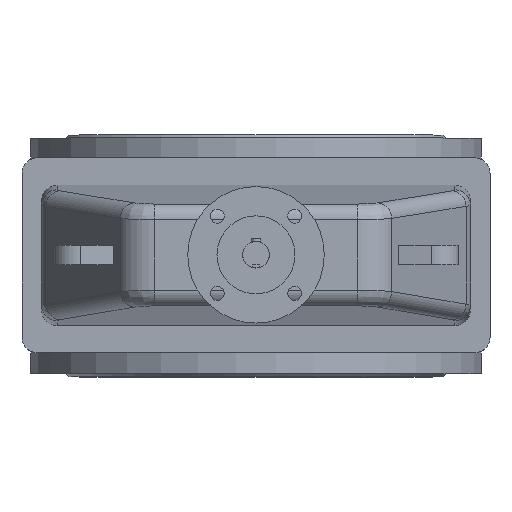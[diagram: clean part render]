
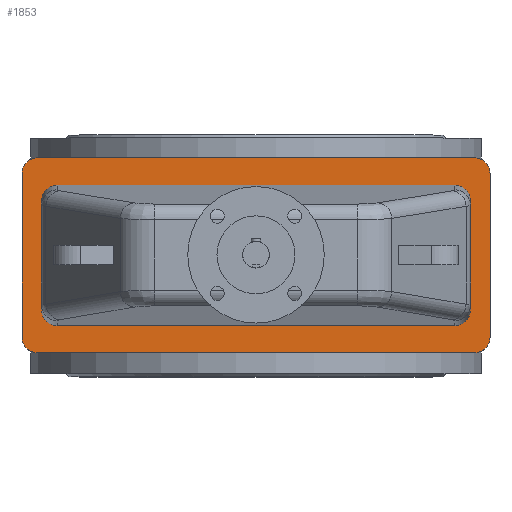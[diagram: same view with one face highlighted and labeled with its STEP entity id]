
A CAD part, top view. The second image highlights one B-rep face of the part: STEP entity #1853.
In plain terms, the highlighted planar face has unit normal (0, 0, 1).
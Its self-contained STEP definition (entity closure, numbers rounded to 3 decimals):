
#1853=ADVANCED_FACE('',(#5692,#5694),#5696,.T.);
#5692=FACE_BOUND('',#5693,.T.);
#5693=EDGE_LOOP('',(#7711,#7712,#7713,#7714,#7715,#7716,#7717,#7718));
#5694=FACE_BOUND('',#5695,.T.);
#5695=EDGE_LOOP('',(#7719,#7720,#7721,#7722,#7723,#7724,#7725,#7726));
#5696=PLANE('',#5697);
#5697=AXIS2_PLACEMENT_3D('',#5698,#5699,#5700);
#5698=CARTESIAN_POINT('',(0.,0.,466.));
#5699=DIRECTION('',(0.,-0.,1.));
#5700=DIRECTION('',(0.,1.,0.));
#7711=ORIENTED_EDGE('',*,*,#8463,.F.);
#7712=ORIENTED_EDGE('',*,*,#8476,.T.);
#7713=ORIENTED_EDGE('',*,*,#8475,.F.);
#7714=ORIENTED_EDGE('',*,*,#8473,.T.);
#7715=ORIENTED_EDGE('',*,*,#8471,.F.);
#7716=ORIENTED_EDGE('',*,*,#8469,.T.);
#7717=ORIENTED_EDGE('',*,*,#8467,.F.);
#7718=ORIENTED_EDGE('',*,*,#8464,.T.);
#7719=ORIENTED_EDGE('',*,*,#8477,.F.);
#7720=ORIENTED_EDGE('',*,*,#8478,.F.);
#7721=ORIENTED_EDGE('',*,*,#8479,.F.);
#7722=ORIENTED_EDGE('',*,*,#8480,.F.);
#7723=ORIENTED_EDGE('',*,*,#8481,.F.);
#7724=ORIENTED_EDGE('',*,*,#8482,.F.);
#7725=ORIENTED_EDGE('',*,*,#8483,.F.);
#7726=ORIENTED_EDGE('',*,*,#8484,.F.);
#8463=EDGE_CURVE('',#9403,#9401,#9405,.F.);
#8464=EDGE_CURVE('',#9406,#9401,#9407,.T.);
#8467=EDGE_CURVE('',#9406,#9409,#9411,.F.);
#8469=EDGE_CURVE('',#9412,#9409,#9414,.T.);
#8471=EDGE_CURVE('',#9412,#9415,#9417,.F.);
#8473=EDGE_CURVE('',#9418,#9415,#9420,.T.);
#8475=EDGE_CURVE('',#9418,#9421,#9423,.F.);
#8476=EDGE_CURVE('',#9403,#9421,#9424,.T.);
#8477=EDGE_CURVE('',#9425,#9426,#9427,.F.);
#8478=EDGE_CURVE('',#9428,#9425,#9429,.T.);
#8479=EDGE_CURVE('',#9430,#9428,#9431,.T.);
#8480=EDGE_CURVE('',#9432,#9430,#9433,.T.);
#8481=EDGE_CURVE('',#9434,#9432,#9435,.F.);
#8482=EDGE_CURVE('',#9436,#9434,#9437,.T.);
#8483=EDGE_CURVE('',#9438,#9436,#9439,.T.);
#8484=EDGE_CURVE('',#9426,#9438,#9440,.T.);
#9401=VERTEX_POINT('',#12401);
#9403=VERTEX_POINT('',#12405);
#9405=CIRCLE('',#12409,20.);
#9406=VERTEX_POINT('',#12413);
#9407=LINE('',#12414,#12415);
#9409=VERTEX_POINT('',#12420);
#9411=CIRCLE('',#12424,20.);
#9412=VERTEX_POINT('',#12428);
#9414=LINE('',#12432,#12433);
#9415=VERTEX_POINT('',#12435);
#9417=CIRCLE('',#12439,20.);
#9418=VERTEX_POINT('',#12443);
#9420=LINE('',#12447,#12448);
#9421=VERTEX_POINT('',#12450);
#9423=CIRCLE('',#12454,20.);
#9424=LINE('',#12458,#12459);
#9425=VERTEX_POINT('',#12461);
#9426=VERTEX_POINT('',#12462);
#9427=(BOUNDED_CURVE()B_SPLINE_CURVE(3,
(#12463,#12464,#12465,#12466),
.UNSPECIFIED.,.F.,.F.)B_SPLINE_CURVE_WITH_KNOTS((4,4),
(0.,1.),
.UNSPECIFIED.)CURVE()GEOMETRIC_REPRESENTATION_ITEM()RATIONAL_B_SPLINE_CURVE((1.,
0.805,0.805,1.))REPRESENTATION_ITEM(''));
#9428=VERTEX_POINT('',#12467);
#9429=LINE('',#12468,#12469);
#9430=VERTEX_POINT('',#12471);
#9431=(BOUNDED_CURVE()B_SPLINE_CURVE(3,
(#12472,#12473,#12474,#12475),
.UNSPECIFIED.,.F.,.F.)B_SPLINE_CURVE_WITH_KNOTS((4,4),
(0.,1.),
.UNSPECIFIED.)CURVE()GEOMETRIC_REPRESENTATION_ITEM()RATIONAL_B_SPLINE_CURVE((1.,
0.805,0.805,1.))REPRESENTATION_ITEM(''));
#9432=VERTEX_POINT('',#12476);
#9433=LINE('',#12477,#12478);
#9434=VERTEX_POINT('',#12480);
#9435=(BOUNDED_CURVE()B_SPLINE_CURVE(3,
(#12481,#12482,#12483,#12484),
.UNSPECIFIED.,.F.,.F.)B_SPLINE_CURVE_WITH_KNOTS((4,4),
(0.,1.),
.UNSPECIFIED.)CURVE()GEOMETRIC_REPRESENTATION_ITEM()RATIONAL_B_SPLINE_CURVE((1.,
0.805,0.805,1.))REPRESENTATION_ITEM(''));
#9436=VERTEX_POINT('',#12485);
#9437=LINE('',#12486,#12487);
#9438=VERTEX_POINT('',#12489);
#9439=(BOUNDED_CURVE()B_SPLINE_CURVE(3,
(#12490,#12491,#12492,#12493),
.UNSPECIFIED.,.F.,.F.)B_SPLINE_CURVE_WITH_KNOTS((4,4),
(0.,1.),
.UNSPECIFIED.)CURVE()GEOMETRIC_REPRESENTATION_ITEM()RATIONAL_B_SPLINE_CURVE((1.,
0.805,0.805,1.))REPRESENTATION_ITEM(''));
#9440=LINE('',#12494,#12495);
#12401=CARTESIAN_POINT('',(-300.,-105.,466.));
#12405=CARTESIAN_POINT('',(-280.,-125.,466.));
#12409=AXIS2_PLACEMENT_3D('',#12410,#12411,#12412);
#12410=CARTESIAN_POINT('',(-280.,-105.,466.));
#12411=DIRECTION('',(0.,-0.,1.));
#12412=DIRECTION('',(-1.,0.,0.));
#12413=CARTESIAN_POINT('',(-300.,105.,466.));
#12414=CARTESIAN_POINT('',(-300.,105.,466.));
#12415=VECTOR('',#12416,1.);
#12416=DIRECTION('',(0.,-1.,0.));
#12420=CARTESIAN_POINT('',(-280.,125.,466.));
#12424=AXIS2_PLACEMENT_3D('',#12425,#12426,#12427);
#12425=CARTESIAN_POINT('',(-280.,105.,466.));
#12426=DIRECTION('',(0.,-0.,1.));
#12427=DIRECTION('',(0.,1.,0.));
#12428=CARTESIAN_POINT('',(280.,125.,466.));
#12432=CARTESIAN_POINT('',(280.,125.,466.));
#12433=VECTOR('',#12434,1.);
#12434=DIRECTION('',(-1.,0.,0.));
#12435=CARTESIAN_POINT('',(300.,105.,466.));
#12439=AXIS2_PLACEMENT_3D('',#12440,#12441,#12442);
#12440=CARTESIAN_POINT('',(280.,105.,466.));
#12441=DIRECTION('',(0.,-0.,1.));
#12442=DIRECTION('',(1.,0.,0.));
#12443=CARTESIAN_POINT('',(300.,-105.,466.));
#12447=CARTESIAN_POINT('',(300.,-105.,466.));
#12448=VECTOR('',#12449,1.);
#12449=DIRECTION('',(0.,1.,0.));
#12450=CARTESIAN_POINT('',(280.,-125.,466.));
#12454=AXIS2_PLACEMENT_3D('',#12455,#12456,#12457);
#12455=CARTESIAN_POINT('',(280.,-105.,466.));
#12456=DIRECTION('',(0.,-0.,1.));
#12457=DIRECTION('',(0.,-1.,0.));
#12458=CARTESIAN_POINT('',(-280.,-125.,466.));
#12459=VECTOR('',#12460,1.);
#12460=DIRECTION('',(1.,0.,0.));
#12461=CARTESIAN_POINT('',(255.,-90.,466.));
#12462=CARTESIAN_POINT('',(275.,-69.924,466.));
#12463=CARTESIAN_POINT('',(275.,-69.924,466.));
#12464=CARTESIAN_POINT('',(275.,-81.684,466.));
#12465=CARTESIAN_POINT('',(266.716,-90.,466.));
#12466=CARTESIAN_POINT('',(255.,-90.,466.));
#12467=CARTESIAN_POINT('',(-255.,-90.,466.));
#12468=CARTESIAN_POINT('',(-255.,-90.,466.));
#12469=VECTOR('',#12470,1.);
#12470=DIRECTION('',(1.,0.,0.));
#12471=CARTESIAN_POINT('',(-275.,-69.924,466.));
#12472=CARTESIAN_POINT('',(-275.,-69.924,466.));
#12473=CARTESIAN_POINT('',(-275.,-81.684,466.));
#12474=CARTESIAN_POINT('',(-266.716,-90.,466.));
#12475=CARTESIAN_POINT('',(-255.,-90.,466.));
#12476=CARTESIAN_POINT('',(-275.,69.924,466.));
#12477=CARTESIAN_POINT('',(-275.,69.924,466.));
#12478=VECTOR('',#12479,1.);
#12479=DIRECTION('',(0.,-1.,0.));
#12480=CARTESIAN_POINT('',(-255.,90.,466.));
#12481=CARTESIAN_POINT('',(-275.,69.924,466.));
#12482=CARTESIAN_POINT('',(-275.,81.684,466.));
#12483=CARTESIAN_POINT('',(-266.716,90.,466.));
#12484=CARTESIAN_POINT('',(-255.,90.,466.));
#12485=CARTESIAN_POINT('',(255.,90.,466.));
#12486=CARTESIAN_POINT('',(255.,90.,466.));
#12487=VECTOR('',#12488,1.);
#12488=DIRECTION('',(-1.,0.,0.));
#12489=CARTESIAN_POINT('',(275.,69.924,466.));
#12490=CARTESIAN_POINT('',(275.,69.924,466.));
#12491=CARTESIAN_POINT('',(275.,81.684,466.));
#12492=CARTESIAN_POINT('',(266.716,90.,466.));
#12493=CARTESIAN_POINT('',(255.,90.,466.));
#12494=CARTESIAN_POINT('',(275.,-69.924,466.));
#12495=VECTOR('',#12496,1.);
#12496=DIRECTION('',(0.,1.,0.));
